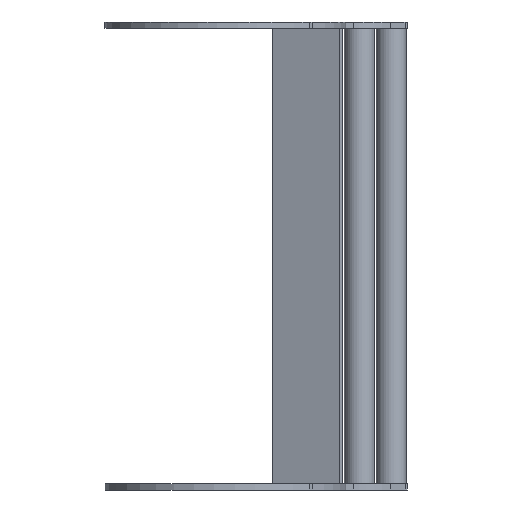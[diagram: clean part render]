
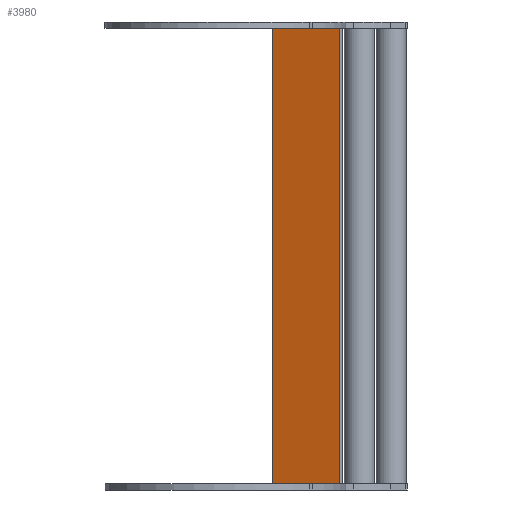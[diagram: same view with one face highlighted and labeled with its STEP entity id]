
A CAD part, front view. The second image highlights one B-rep face of the part: STEP entity #3980.
In plain terms, the highlighted planar face has unit normal (-0.342, -0.94, 0).
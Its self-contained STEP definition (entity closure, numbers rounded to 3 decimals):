
#39 = AXIS2_PLACEMENT_3D ( 'NONE', #4466, #1591, #869 ) ;
#223 = LINE ( 'NONE', #3633, #2685 ) ;
#345 = LINE ( 'NONE', #4840, #2986 ) ;
#768 = EDGE_CURVE ( 'NONE', #1018, #4694, #345, .T. ) ;
#869 = DIRECTION ( 'NONE',  ( -0.94, 0.342, 0. ) ) ;
#1018 = VERTEX_POINT ( 'NONE', #3754 ) ;
#1170 = PLANE ( 'NONE',  #39 ) ;
#1180 = DIRECTION ( 'NONE',  ( 0., 0., 1. ) ) ;
#1382 = ORIENTED_EDGE ( 'NONE', *, *, #768, .F. ) ;
#1433 = CARTESIAN_POINT ( 'NONE',  ( 23.4, 73.787, 0. ) ) ;
#1591 = DIRECTION ( 'NONE',  ( 0.342, 0.94, 0. ) ) ;
#1679 = ORIENTED_EDGE ( 'NONE', *, *, #2566, .T. ) ;
#1804 = VERTEX_POINT ( 'NONE', #1433 ) ;
#2408 = DIRECTION ( 'NONE',  ( 0., 0., 1. ) ) ;
#2504 = VECTOR ( 'NONE', #1180, 1000. ) ;
#2566 = EDGE_CURVE ( 'NONE', #1018, #5162, #223, .T. ) ;
#2598 = EDGE_LOOP ( 'NONE', ( #3407, #5091, #1382, #1679 ) ) ;
#2685 = VECTOR ( 'NONE', #2408, 1000. ) ;
#2774 = CARTESIAN_POINT ( 'NONE',  ( 56.745, 61.65, 0. ) ) ;
#2986 = VECTOR ( 'NONE', #4788, 1000. ) ;
#3003 = EDGE_CURVE ( 'NONE', #5162, #1804, #4604, .T. ) ;
#3368 = CARTESIAN_POINT ( 'NONE',  ( 23.4, 73.787, -227. ) ) ;
#3395 = EDGE_CURVE ( 'NONE', #4694, #1804, #5179, .T. ) ;
#3407 = ORIENTED_EDGE ( 'NONE', *, *, #3003, .T. ) ;
#3633 = CARTESIAN_POINT ( 'NONE',  ( 56.745, 61.65, -227. ) ) ;
#3754 = CARTESIAN_POINT ( 'NONE',  ( 56.745, 61.65, -227. ) ) ;
#3905 = FACE_OUTER_BOUND ( 'NONE', #2598, .T. ) ;
#3980 = ADVANCED_FACE ( 'NONE', ( #3905 ), #1170, .F. ) ;
#4014 = CARTESIAN_POINT ( 'NONE',  ( 23.4, 73.787, -227. ) ) ;
#4264 = CARTESIAN_POINT ( 'NONE',  ( 56.745, 61.65, 0. ) ) ;
#4411 = VECTOR ( 'NONE', #5113, 1000. ) ;
#4466 = CARTESIAN_POINT ( 'NONE',  ( 56.745, 61.65, -227. ) ) ;
#4604 = LINE ( 'NONE', #4264, #4411 ) ;
#4694 = VERTEX_POINT ( 'NONE', #3368 ) ;
#4788 = DIRECTION ( 'NONE',  ( -0.94, 0.342, 0. ) ) ;
#4840 = CARTESIAN_POINT ( 'NONE',  ( 56.745, 61.65, -227. ) ) ;
#5091 = ORIENTED_EDGE ( 'NONE', *, *, #3395, .F. ) ;
#5113 = DIRECTION ( 'NONE',  ( -0.94, 0.342, 0. ) ) ;
#5162 = VERTEX_POINT ( 'NONE', #2774 ) ;
#5179 = LINE ( 'NONE', #4014, #2504 ) ;
